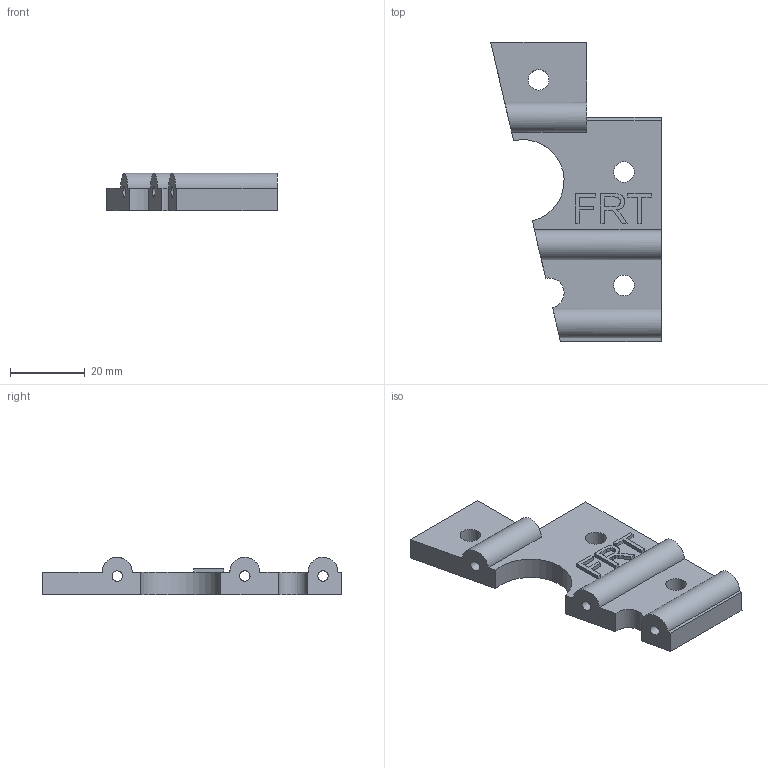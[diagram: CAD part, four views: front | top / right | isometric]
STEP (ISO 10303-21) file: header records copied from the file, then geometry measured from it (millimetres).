
FILE_DESCRIPTION(/* description */ (''),/* implementation_level */ '2;1');
FILE_NAME(/* name */ 'Z - FR Top Frame Tie v2.step',/* time_stamp */ '2023-03-23T06:43:02-06:00',/* author */ (''),/* organization */ (''),/* preprocessor_version */ 'ST-DEVELOPER v19.2',/* originating_system */ 'Autodesk Translation Framework v11.17.0.187',/* authorisation */ '');
FILE_SCHEMA (('AUTOMOTIVE_DESIGN { 1 0 10303 214 3 1 1 }'));
Length unit declared in the file: millimetre
Products named in the file (2): Z - FR Top Frame Tie; FR Top 1
Assembly tree (1 placements, depth 2):
  Z - FR Top Frame Tie
    FR Top 1
Bounding box: 45.63 x 80 x 10 mm (x, y, z)
Volume: 14860.1 mm3; surface area: 7580.6 mm2
Topology: 1 solids, 1 shells, 73 faces, 204 edges, 136 vertices
Faces by surface type: plane 46, bspline 16, cylinder 11
Full cylindrical faces by diameter (mm): 2.8 x3, 5.5 x3
Entity records: 2566 total; most frequent: CARTESIAN_POINT 688, ORIENTED_EDGE 408, DIRECTION 316, EDGE_CURVE 204, LINE 148, VECTOR 148, VERTEX_POINT 136, EDGE_LOOP 88
